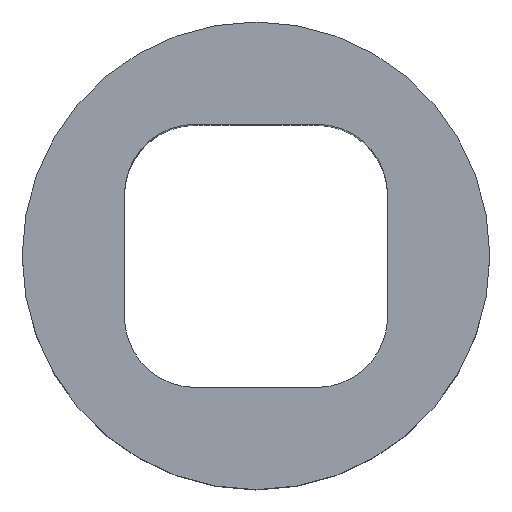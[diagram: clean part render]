
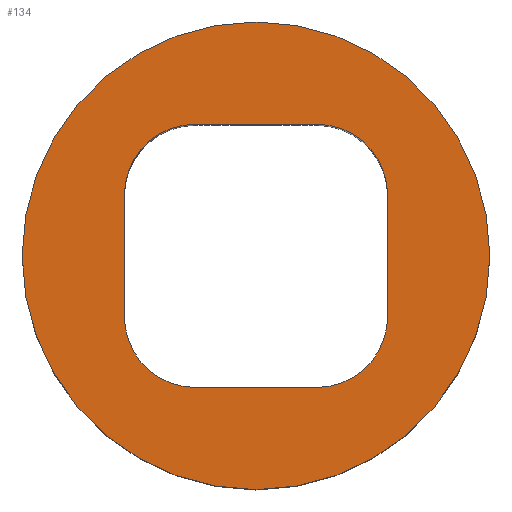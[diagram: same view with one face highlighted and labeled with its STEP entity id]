
A CAD part, top view. The second image highlights one B-rep face of the part: STEP entity #134.
In plain terms, the highlighted planar face has unit normal (0, 0, 1).
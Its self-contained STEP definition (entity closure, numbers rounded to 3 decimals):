
#125=FACE_BOUND('',#196,.T.);
#126=FACE_BOUND('',#197,.T.);
#134=ADVANCED_FACE('',(#125,#126),#155,.T.);
#155=PLANE('',#570);
#196=EDGE_LOOP('',(#272,#273,#274,#275,#276,#277,#278,#279));
#197=EDGE_LOOP('',(#280));
#227=CIRCLE('',#561,13.5);
#229=CIRCLE('',#566,4.1);
#230=CIRCLE('',#567,4.1);
#231=CIRCLE('',#568,4.1);
#232=CIRCLE('',#569,4.1);
#272=ORIENTED_EDGE('',*,*,#439,.F.);
#273=ORIENTED_EDGE('',*,*,#440,.F.);
#274=ORIENTED_EDGE('',*,*,#441,.F.);
#275=ORIENTED_EDGE('',*,*,#442,.F.);
#276=ORIENTED_EDGE('',*,*,#443,.F.);
#277=ORIENTED_EDGE('',*,*,#410,.F.);
#278=ORIENTED_EDGE('',*,*,#444,.F.);
#279=ORIENTED_EDGE('',*,*,#445,.F.);
#280=ORIENTED_EDGE('',*,*,#437,.F.);
#366=VERTEX_POINT('',#728);
#367=VERTEX_POINT('',#730);
#391=VERTEX_POINT('',#845);
#393=VERTEX_POINT('',#852);
#394=VERTEX_POINT('',#853);
#395=VERTEX_POINT('',#855);
#396=VERTEX_POINT('',#857);
#397=VERTEX_POINT('',#859);
#398=VERTEX_POINT('',#862);
#410=EDGE_CURVE('',#366,#367,#473,.T.);
#437=EDGE_CURVE('',#391,#391,#227,.T.);
#439=EDGE_CURVE('',#393,#394,#229,.T.);
#440=EDGE_CURVE('',#395,#393,#485,.T.);
#441=EDGE_CURVE('',#396,#395,#230,.T.);
#442=EDGE_CURVE('',#397,#396,#486,.T.);
#443=EDGE_CURVE('',#367,#397,#231,.T.);
#444=EDGE_CURVE('',#398,#366,#232,.T.);
#445=EDGE_CURVE('',#394,#398,#487,.T.);
#473=LINE('',#729,#509);
#485=LINE('',#854,#521);
#486=LINE('',#858,#522);
#487=LINE('',#863,#523);
#509=VECTOR('',#598,1.);
#521=VECTOR('',#652,1.);
#522=VECTOR('',#655,1.);
#523=VECTOR('',#660,1.);
#561=AXIS2_PLACEMENT_3D('',#844,#640,#641);
#566=AXIS2_PLACEMENT_3D('',#851,#650,#651);
#567=AXIS2_PLACEMENT_3D('',#856,#653,#654);
#568=AXIS2_PLACEMENT_3D('',#860,#656,#657);
#569=AXIS2_PLACEMENT_3D('',#861,#658,#659);
#570=AXIS2_PLACEMENT_3D('',#864,#661,#662);
#598=DIRECTION('',(-1.,0.,0.));
#640=DIRECTION('',(0.,0.,-1.));
#641=DIRECTION('',(1.,0.,0.));
#650=DIRECTION('',(0.,0.,1.));
#651=DIRECTION('',(1.,0.,0.));
#652=DIRECTION('',(1.,0.,0.));
#653=DIRECTION('',(0.,0.,1.));
#654=DIRECTION('',(1.,0.,0.));
#655=DIRECTION('',(0.,-1.,0.));
#656=DIRECTION('',(0.,0.,1.));
#657=DIRECTION('',(1.,0.,0.));
#658=DIRECTION('',(0.,0.,1.));
#659=DIRECTION('',(1.,0.,0.));
#660=DIRECTION('',(0.,1.,0.));
#661=DIRECTION('',(0.,0.,1.));
#662=DIRECTION('',(1.,0.,0.));
#728=CARTESIAN_POINT('',(93.288,72.6,92.47));
#729=CARTESIAN_POINT('',(86.283,72.6,92.47));
#730=CARTESIAN_POINT('',(86.288,72.6,92.47));
#844=CARTESIAN_POINT('',(89.788,65.,92.47));
#845=CARTESIAN_POINT('',(103.288,65.,92.47));
#851=CARTESIAN_POINT('',(93.288,61.5,92.47));
#852=CARTESIAN_POINT('',(93.288,57.4,92.47));
#853=CARTESIAN_POINT('',(97.388,61.5,92.47));
#854=CARTESIAN_POINT('',(86.283,57.4,92.47));
#855=CARTESIAN_POINT('',(86.288,57.4,92.47));
#856=CARTESIAN_POINT('',(86.288,61.5,92.47));
#857=CARTESIAN_POINT('',(82.188,61.5,92.47));
#858=CARTESIAN_POINT('',(82.188,-63.114,92.47));
#859=CARTESIAN_POINT('',(82.188,68.5,92.47));
#860=CARTESIAN_POINT('',(86.288,68.5,92.47));
#861=CARTESIAN_POINT('',(93.288,68.5,92.47));
#862=CARTESIAN_POINT('',(97.388,68.5,92.47));
#863=CARTESIAN_POINT('',(97.388,-63.114,92.47));
#864=CARTESIAN_POINT('',(86.283,-63.114,92.47));
